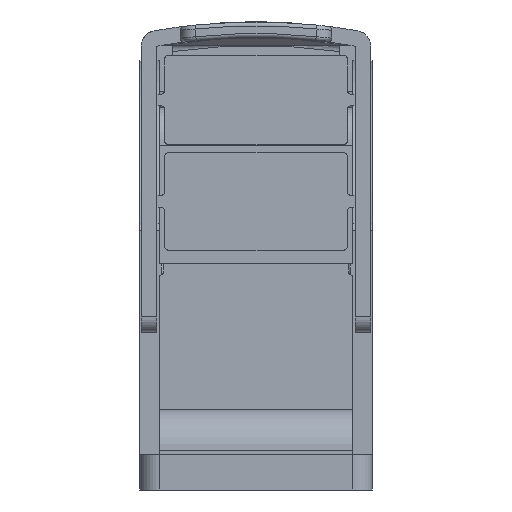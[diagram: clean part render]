
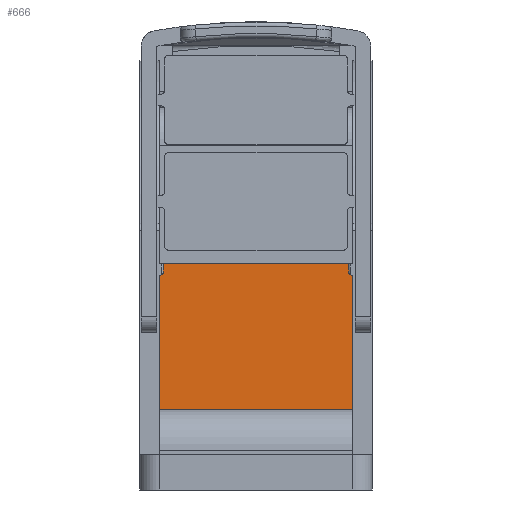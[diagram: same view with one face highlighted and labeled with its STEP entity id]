
A CAD part, front view. The second image highlights one B-rep face of the part: STEP entity #666.
In plain terms, the highlighted planar face has unit normal (0, -1, 0).
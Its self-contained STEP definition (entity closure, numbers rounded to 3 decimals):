
#666=ADVANCED_FACE('',(#1190),#925,.F.);
#925=PLANE('',#6516);
#1190=FACE_OUTER_BOUND('',#1512,.T.);
#1512=EDGE_LOOP('',(#3924,#3925,#3926,#3927,#3928,#3929,#3930,#3931,#3932,
#3933));
#2033=LINE('',#10370,#2665);
#2036=LINE('',#10376,#2668);
#2037=LINE('',#10379,#2669);
#2038=LINE('',#10381,#2670);
#2039=LINE('',#10383,#2671);
#2040=LINE('',#10385,#2672);
#2041=LINE('',#10387,#2673);
#2042=LINE('',#10389,#2674);
#2043=LINE('',#10391,#2675);
#2044=LINE('',#10392,#2676);
#2665=VECTOR('',#7671,1.);
#2668=VECTOR('',#7676,1.);
#2669=VECTOR('',#7677,1.);
#2670=VECTOR('',#7678,1.);
#2671=VECTOR('',#7679,1.);
#2672=VECTOR('',#7680,1.);
#2673=VECTOR('',#7681,1.);
#2674=VECTOR('',#7682,1.);
#2675=VECTOR('',#7683,1.);
#2676=VECTOR('',#7684,1.);
#3924=ORIENTED_EDGE('',*,*,#5806,.F.);
#3925=ORIENTED_EDGE('',*,*,#5807,.T.);
#3926=ORIENTED_EDGE('',*,*,#5808,.F.);
#3927=ORIENTED_EDGE('',*,*,#5809,.T.);
#3928=ORIENTED_EDGE('',*,*,#5810,.T.);
#3929=ORIENTED_EDGE('',*,*,#5811,.F.);
#3930=ORIENTED_EDGE('',*,*,#5812,.T.);
#3931=ORIENTED_EDGE('',*,*,#5813,.F.);
#3932=ORIENTED_EDGE('',*,*,#5803,.F.);
#3933=ORIENTED_EDGE('',*,*,#5814,.F.);
#5060=VERTEX_POINT('',#10369);
#5061=VERTEX_POINT('',#10371);
#5063=VERTEX_POINT('',#10377);
#5064=VERTEX_POINT('',#10378);
#5065=VERTEX_POINT('',#10380);
#5066=VERTEX_POINT('',#10382);
#5067=VERTEX_POINT('',#10384);
#5068=VERTEX_POINT('',#10386);
#5069=VERTEX_POINT('',#10388);
#5070=VERTEX_POINT('',#10390);
#5803=EDGE_CURVE('',#5060,#5061,#2033,.T.);
#5806=EDGE_CURVE('',#5063,#5064,#2036,.T.);
#5807=EDGE_CURVE('',#5063,#5065,#2037,.T.);
#5808=EDGE_CURVE('',#5066,#5065,#2038,.T.);
#5809=EDGE_CURVE('',#5066,#5067,#2039,.T.);
#5810=EDGE_CURVE('',#5067,#5068,#2040,.T.);
#5811=EDGE_CURVE('',#5069,#5068,#2041,.T.);
#5812=EDGE_CURVE('',#5069,#5070,#2042,.T.);
#5813=EDGE_CURVE('',#5061,#5070,#2043,.T.);
#5814=EDGE_CURVE('',#5064,#5060,#2044,.T.);
#6516=AXIS2_PLACEMENT_3D('',#10393,#7685,#7686);
#7671=DIRECTION('',(0.,0.,-1.));
#7676=DIRECTION('',(0.,0.,1.));
#7677=DIRECTION('',(-0.707,0.,-0.707));
#7678=DIRECTION('',(1.,0.,0.));
#7679=DIRECTION('',(0.,0.,-1.));
#7680=DIRECTION('',(1.,0.,0.));
#7681=DIRECTION('',(0.,0.,-1.));
#7682=DIRECTION('',(-1.,0.,0.));
#7683=DIRECTION('',(0.707,0.,-0.707));
#7684=DIRECTION('',(1.,0.,0.));
#7685=DIRECTION('',(0.,1.,0.));
#7686=DIRECTION('',(-1.,0.,0.));
#10369=CARTESIAN_POINT('',(-92.355,-144.149,14.15));
#10370=CARTESIAN_POINT('',(-92.355,-144.149,10.1));
#10371=CARTESIAN_POINT('',(-92.355,-144.149,12.95));
#10376=CARTESIAN_POINT('',(-116.155,-144.149,10.1));
#10377=CARTESIAN_POINT('',(-116.155,-144.149,12.95));
#10378=CARTESIAN_POINT('',(-116.155,-144.149,14.15));
#10379=CARTESIAN_POINT('',(-116.155,-144.149,12.95));
#10380=CARTESIAN_POINT('',(-116.455,-144.149,12.65));
#10381=CARTESIAN_POINT('',(-118.405,-144.149,12.65));
#10382=CARTESIAN_POINT('',(-116.655,-144.149,12.65));
#10383=CARTESIAN_POINT('',(-116.655,-144.149,23.9));
#10384=CARTESIAN_POINT('',(-116.655,-144.149,-4.5));
#10385=CARTESIAN_POINT('',(-81.055,-144.149,-4.5));
#10386=CARTESIAN_POINT('',(-91.855,-144.149,-4.5));
#10387=CARTESIAN_POINT('',(-91.855,-144.149,10.1));
#10388=CARTESIAN_POINT('',(-91.855,-144.149,12.65));
#10389=CARTESIAN_POINT('',(-81.055,-144.149,12.65));
#10390=CARTESIAN_POINT('',(-92.055,-144.149,12.65));
#10391=CARTESIAN_POINT('',(-85.28,-144.149,5.875));
#10392=CARTESIAN_POINT('',(-81.055,-144.149,14.15));
#10393=CARTESIAN_POINT('',(-81.055,-144.149,10.1));
